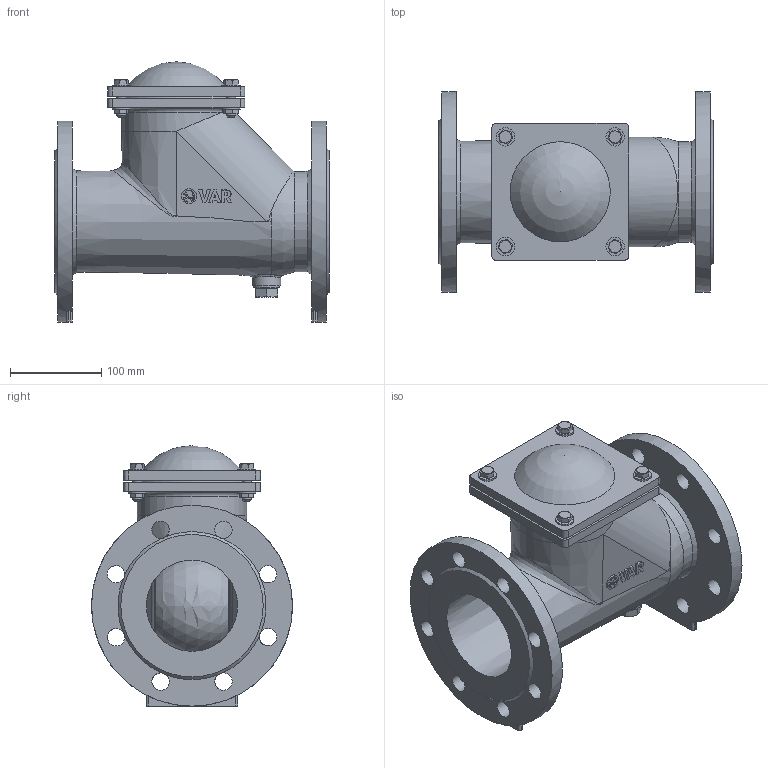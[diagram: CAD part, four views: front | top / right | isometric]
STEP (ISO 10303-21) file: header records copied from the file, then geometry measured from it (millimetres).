
FILE_DESCRIPTION(('STEP AP203'), '1');
FILE_NAME('Øàðîâîé îáðàòíûé êëàïàí VAG KRV', '', ('UNSPECIFIED'), ('UNSPECIFIED'), 'C3D Converter', 'C3D Toolkit', '');
FILE_SCHEMA(('CONFIG_CONTROL_DESIGN'));
Length unit declared in the file: millimetre
Assembly tree (22 placements, depth 2):
  (unnamed)
    (unnamed)
    (unnamed)
    (unnamed)
    (unnamed)
    (unnamed)
    (unnamed)  x4
    (unnamed)  x4
    (unnamed)  x4
    (unnamed)  x4
    (unnamed)
Bounding box: 300 x 220 x 285 mm (x, y, z)
Volume: 2711303.2 mm3; surface area: 592172.8 mm2
Topology: 23 solids, 24 shells, 547 faces, 1452 edges, 971 vertices
Faces by surface type: plane 257, extrusion 140, cylinder 83, cone 39, bspline 11, sphere 9, torus 8
Full cylindrical faces by diameter (mm): 8.376 x4, 10 x4, 10.5 x8, 12 x8, 16 x2, 16.447 x1, 17 x1, 19 x16, 20 x8, 22.49 x1, 28 x1, 31 x1, 100 x1, 110 x3, 220 x2
Entity records: 23360 total; most frequent: CARTESIAN_POINT 9978, ORIENTED_EDGE 2244, DIRECTION 1720, EDGE_CURVE 1122, VERTEX_POINT 777, VECTOR 674, EDGE_LOOP 579, LINE 534
